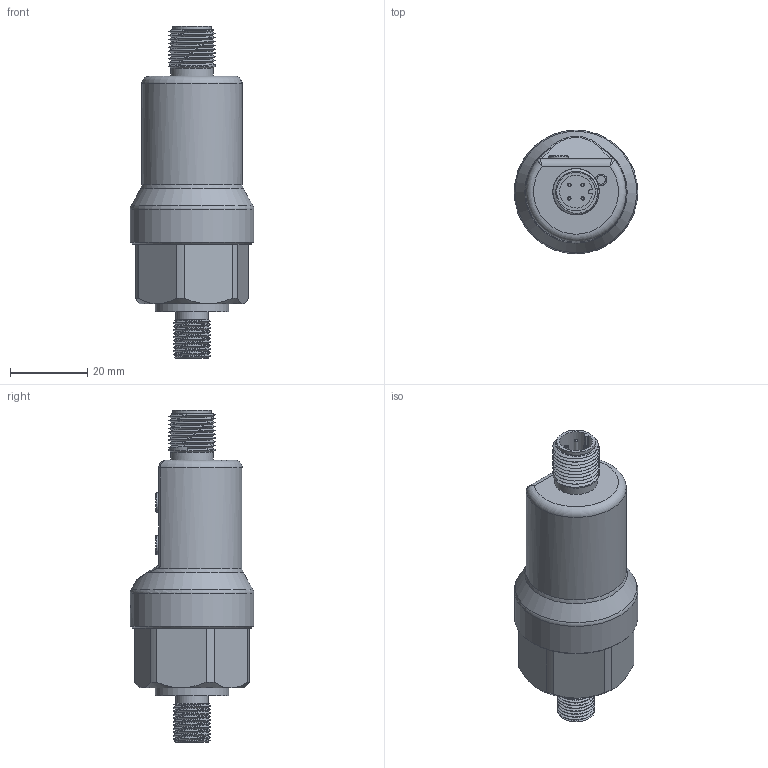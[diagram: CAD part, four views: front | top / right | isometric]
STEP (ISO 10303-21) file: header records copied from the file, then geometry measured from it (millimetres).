
FILE_DESCRIPTION( (''), '2;1');
FILE_NAME( 'PSKA_G1-8_2.step', '2025-08-21T14:37:47+08:00', (''), (''), '', '', '');
FILE_SCHEMA (('AUTOMOTIVE_DESIGN { 1 0 10303 214 3 1 1 1 }'));
Length unit declared in the file: millimetre
Products named in the file (1): PSKA G1-8_2
Bounding box: 32 x 32 x 86 mm (x, y, z)
Volume: 18961 mm3; surface area: 18450.3 mm2
Topology: 11 solids, 11 shells, 270 faces, 610 edges, 390 vertices
Faces by surface type: plane 141, cylinder 67, cone 25, torus 22, bspline 14, sphere 1
Full cylindrical faces by diameter (mm): 0.5 x2, 0.9 x8, 2 x4, 2.6 x1, 3 x1, 4 x1, 5 x2, 5.3 x2, 7 x1, 8.3 x1, 9.8 x2, 10 x1, 11 x1, 12 x1, 19 x1, 19.1 x1, 23 x2, 26 x3, 26.1 x1, 32 x1
Entity records: 13081 total; most frequent: CARTESIAN_POINT 7205, DIRECTION 1150, ORIENTED_EDGE 1050, EDGE_CURVE 525, AXIS2_PLACEMENT_3D 452, EDGE_LOOP 379, VERTEX_POINT 372, ADVANCED_FACE 270
